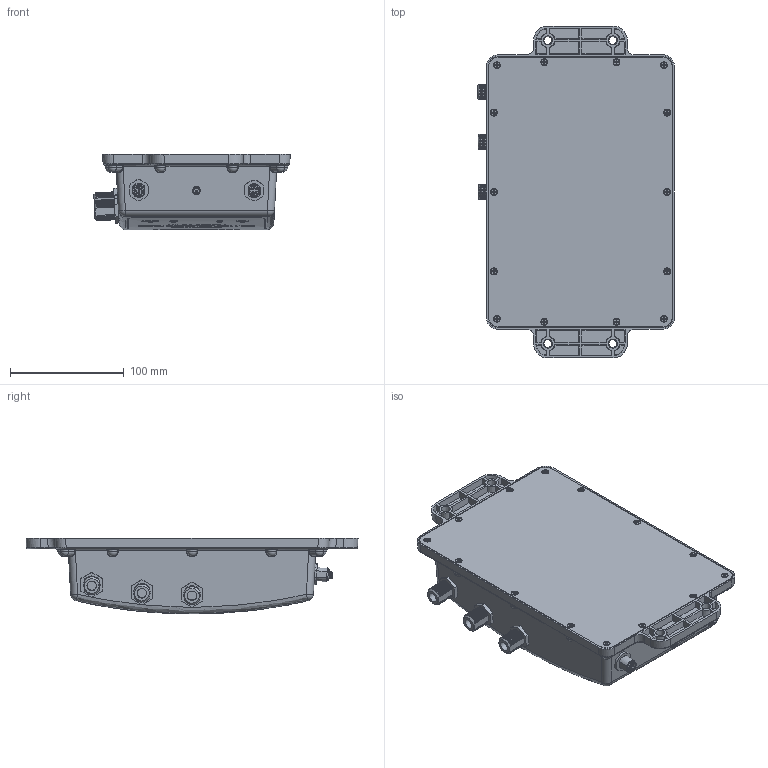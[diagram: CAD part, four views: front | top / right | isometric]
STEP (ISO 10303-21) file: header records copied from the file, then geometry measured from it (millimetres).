
FILE_DESCRIPTION(('972-0009'),'1');
FILE_NAME('RLX2-IHNF-W Radio 3D Model', 'Revision 00', ( 'ProSoft Technology' ), ( 'ProSoft Technology' ), '', '', '' );
FILE_SCHEMA (('AUTOMOTIVE_DESIGN'));
Products named in the file (1): RLX2-IHNF-W 3D Model
Bounding box: 172.87 x 292.1 x 66.8 mm (x, y, z)
Volume: 442758.3 mm3; surface area: 254397.8 mm2
Topology: 1 solids, 16 shells, 3878 faces, 10449 edges, 6895 vertices
Faces by surface type: plane 1910, cylinder 777, cone 584, extrusion 435, bspline 117, torus 35, sphere 20
Full cylindrical faces by diameter (mm): 1 x12, 1.016 x15, 1.2 x12, 2.156 x18, 2.387 x14, 2.845 x14, 3.175 x4, 3.406 x5, 3.937 x14, 6.747 x1, 7 x2, 8.3 x2, 8.382 x3, 10.2 x2, 10.312 x3, 10.5 x2, 11 x2, 14.554 x3, 19.05 x3
Entity records: 226324 total; most frequent: CARTESIAN_POINT 132409, ORIENTED_EDGE 19998, DIRECTION 17537, EDGE_CURVE 9999, VERTEX_POINT 6765, AXIS2_PLACEMENT_3D 6345, VECTOR 4847, FACE_BOUND 4512
